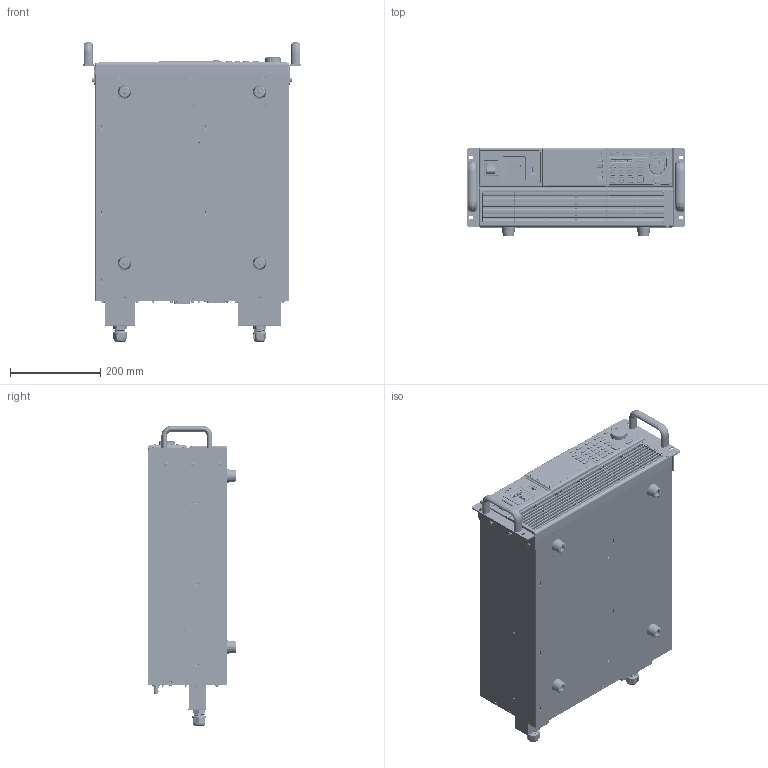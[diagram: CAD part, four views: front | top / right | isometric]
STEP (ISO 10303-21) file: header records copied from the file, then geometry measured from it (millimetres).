
FILE_DESCRIPTION((''),'2;1');
FILE_NAME('ASR-3000_ASM_ASM','2021-06-07T18:11:17',('jeffery_kuo'),(''),'CREO PARAMETRIC BY PTC INC, 2019080','CREO PARAMETRIC BY PTC INC, 2019080','');
FILE_SCHEMA(('CONFIG_CONTROL_DESIGN'));
Products named in the file (175): ASR-3000_ASM_SKEL0001; ASR-3000-F-1_ASM_SKEL0001; 62SR-3K0FP101; 62SR-3K0FP101-HP; 62SR-3K0FP101-HP-1; APS-HP-SOCKET-BSF-R4_T1; 62PS-7K0FP1B1-2_ASM; APS-HP-SOCKET_RG-02; 62PS-7K0FP2B1-2_ASM; SO-M3-3L; SO-M3-4; SO-M3-S5; FH-M4-12; 62SR-3K0FP101_ASM; LCD-PH-07008-002; APS-LCD-HOLD-3; 62PS-7K0HP301_ASM; 57RG-20B04001; 57RG-20B03901; APS-1000W_LCD_ASM_ASM; PMS-W-3X6; APS-PCB-KEYBOARD; CTT-1137; LED16X08S-SMD-SINGLECOLOR; ENCODE_SW-NOBLE; APS-9631S-40Z02-CONN-TEK; APS-9639S-50Z03-CONN-TEK; APS-PCB-KEYBOARD_ASM; BTS-LOCK-3X6; SOCKET_BSF-R4_FRAME; SOCKET_BSF-R4; SOCKET_BSF-R4_ASM; APS-HP-A116-1229-USB01; 62PS-7K0HP101_ASM; FRP10; A116-1229-USB01; SCREW-4-40-8D3L; APS-USB-GND-HP_ASM; 3203-01200601; 57RB-40G11301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
Assembly tree (524 placements, depth 5):
  ASR-3000_ASM_ASM
    ASR-3000_ASM_SKEL0001
    ASR-3000-F-1_ASM_ASM
      ASR-3000-F-1_ASM_SKEL0001
      62SR-3K0FP101_ASM
        62SR-3K0FP101
        62SR-3K0FP101-HP  x2
        62SR-3K0FP101-HP-1  x2
        62PS-7K0FP1B1-2_ASM
          APS-HP-SOCKET-BSF-R4_T1
        62PS-7K0FP2B1-2_ASM
          APS-HP-SOCKET_RG-02
        SO-M3-3L  x2
        SO-M3-4  x10
        SO-M3-S5  x2
        FH-M4-12
      APS-1000W_LCD_ASM_ASM
        LCD-PH-07008-002
        62PS-7K0HP301_ASM
          APS-LCD-HOLD-3
        57RG-20B04001  x2
        57RG-20B03901  x2
      PMS-W-3X6  x14
      APS-PCB-KEYBOARD_ASM
        APS-PCB-KEYBOARD
        CTT-1137  x30
        LED16X08S-SMD-SINGLECOLOR  x8
        ENCODE_SW-NOBLE
        APS-9631S-40Z02-CONN-TEK
        APS-9639S-50Z03-CONN-TEK  x2
      BTS-LOCK-3X6  x8
      SOCKET_BSF-R4_ASM
        SOCKET_BSF-R4_FRAME
        SOCKET_BSF-R4
      APS-USB-GND-HP_ASM
        62PS-7K0HP101_ASM
          APS-HP-A116-1229-USB01
        FRP10  x2
        A116-1229-USB01
        SCREW-4-40-8D3L  x2
      3203-01200601
      57RB-40G11301
      63FP-AG112801_ASM
        APS-1000W_FRAME-A
        TONGDING-5D5XM3X5L  x8
      APS-1000W_MODEL_NP-A
      5812-21331201
      5005-350G0101
      APS-6K_FP6_ASM_ASM
        63FP-AG114001
        63FP-AG114101
        57RG-30B01801
      PMS-W-3X8  x2
    ASR-3000-LO-1_ASM_ASM
      ASR-3000-LO-1_ASM_SKEL0001
      62SR-3K0LO101_ASM
        62SR-3K0LO101
        BSO-M3-10  x19
        62SR-3K0LO101-2X6PIN  x9
      ASR-3000-FAN-HP_ASM_ASM
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Bounding box: 482.6 x 196.7 x 666.16 mm (x, y, z)
Volume: 3921981.8 mm3; surface area: 4929639.3 mm2
Topology: 531 solids, 533 shells, 40569 faces, 107661 edges, 69293 vertices
Faces by surface type: plane 26974, cylinder 8227, cone 2133, bspline 1794, torus 593, sphere 570, extrusion 269, revolution 9
Entity records: 690674 total; most frequent: CARTESIAN_POINT 190683, ORIENTED_EDGE 105118, DIRECTION 99451, EDGE_CURVE 52559, VECTOR 37718, LINE 37571, VERTEX_POINT 33801, AXIS2_PLACEMENT_3D 30864
